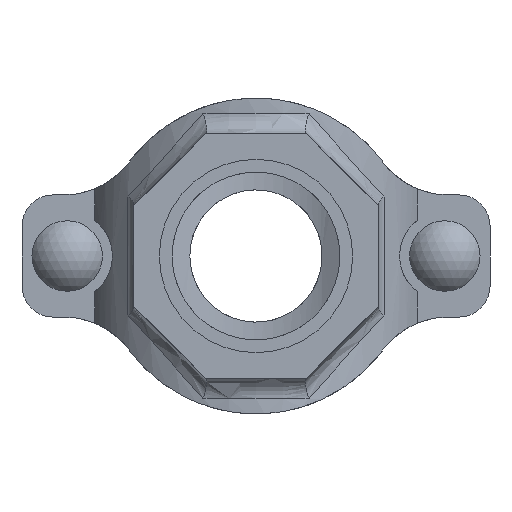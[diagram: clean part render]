
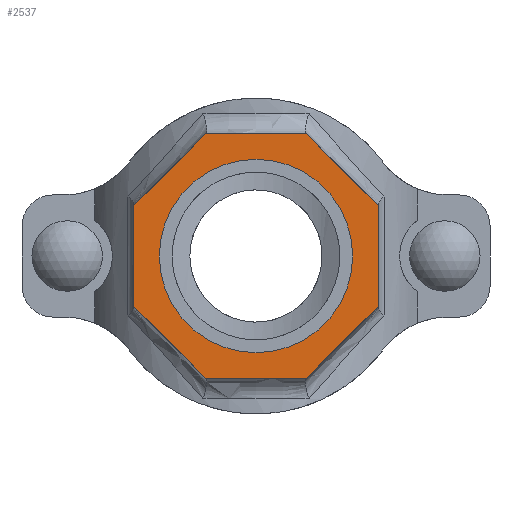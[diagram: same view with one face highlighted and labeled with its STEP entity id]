
A CAD part, front view. The second image highlights one B-rep face of the part: STEP entity #2537.
In plain terms, the highlighted planar face has unit normal (0, -1, 0) as drawn and (0, 1, 0) by its records, which use the part's own axes.
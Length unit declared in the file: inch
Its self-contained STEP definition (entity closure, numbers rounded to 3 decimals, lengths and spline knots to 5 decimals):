
#186=FACE_BOUND('',#457,.T.);
#305=FACE_OUTER_BOUND('',#456,.T.);
#456=EDGE_LOOP('',(#2126,#2127,#2128,#2129,#2130,#2131,#2132,#2133));
#457=EDGE_LOOP('',(#2134));
#594=LINE('',#4683,#780);
#597=LINE('',#4688,#783);
#599=LINE('',#4692,#785);
#601=LINE('',#4696,#787);
#637=LINE('',#5117,#823);
#639=LINE('',#5121,#825);
#641=LINE('',#5125,#827);
#643=LINE('',#5128,#829);
#780=VECTOR('',#3278,0.3937);
#783=VECTOR('',#3283,0.3937);
#785=VECTOR('',#3287,0.3937);
#787=VECTOR('',#3291,0.3937);
#823=VECTOR('',#3415,0.3937);
#825=VECTOR('',#3419,0.3937);
#827=VECTOR('',#3423,0.3937);
#829=VECTOR('',#3427,0.3937);
#915=CIRCLE('',#2798,1.1875);
#1097=VERTEX_POINT('',#4680);
#1098=VERTEX_POINT('',#4682);
#1099=VERTEX_POINT('',#4686);
#1100=VERTEX_POINT('',#4690);
#1101=VERTEX_POINT('',#4694);
#1132=VERTEX_POINT('',#4966);
#1156=VERTEX_POINT('',#5116);
#1157=VERTEX_POINT('',#5120);
#1158=VERTEX_POINT('',#5124);
#1408=EDGE_CURVE('',#1098,#1097,#594,.T.);
#1411=EDGE_CURVE('',#1097,#1099,#597,.T.);
#1413=EDGE_CURVE('',#1099,#1100,#599,.T.);
#1415=EDGE_CURVE('',#1100,#1101,#601,.T.);
#1457=EDGE_CURVE('',#1132,#1132,#915,.T.);
#1489=EDGE_CURVE('',#1156,#1098,#637,.T.);
#1491=EDGE_CURVE('',#1157,#1156,#639,.T.);
#1493=EDGE_CURVE('',#1158,#1157,#641,.T.);
#1495=EDGE_CURVE('',#1101,#1158,#643,.T.);
#2126=ORIENTED_EDGE('',*,*,#1495,.T.);
#2127=ORIENTED_EDGE('',*,*,#1493,.T.);
#2128=ORIENTED_EDGE('',*,*,#1491,.T.);
#2129=ORIENTED_EDGE('',*,*,#1489,.T.);
#2130=ORIENTED_EDGE('',*,*,#1408,.T.);
#2131=ORIENTED_EDGE('',*,*,#1411,.T.);
#2132=ORIENTED_EDGE('',*,*,#1413,.T.);
#2133=ORIENTED_EDGE('',*,*,#1415,.T.);
#2134=ORIENTED_EDGE('',*,*,#1457,.T.);
#2278=PLANE('',#2821);
#2537=ADVANCED_FACE('',(#305,#186),#2278,.T.);
#2798=AXIS2_PLACEMENT_3D('',#4967,#3361,#3362);
#2821=AXIS2_PLACEMENT_3D('',#5129,#3428,#3429);
#3278=DIRECTION('',(0.,0.,1.));
#3283=DIRECTION('',(0.707,0.,0.707));
#3287=DIRECTION('',(1.,0.,0.));
#3291=DIRECTION('',(0.707,0.,-0.707));
#3361=DIRECTION('center_axis',(0.,-1.,0.));
#3362=DIRECTION('ref_axis',(-1.,0.,0.));
#3415=DIRECTION('',(-0.707,0.,0.707));
#3419=DIRECTION('',(-1.,0.,0.));
#3423=DIRECTION('',(-0.707,0.,-0.707));
#3427=DIRECTION('',(0.,0.,-1.));
#3428=DIRECTION('center_axis',(0.,1.,0.));
#3429=DIRECTION('ref_axis',(0.,0.,1.));
#4680=CARTESIAN_POINT('',(-1.5,3.5,0.62132));
#4682=CARTESIAN_POINT('',(-1.5,3.5,-0.62132));
#4683=CARTESIAN_POINT('',(-1.5,3.5,0.62132));
#4686=CARTESIAN_POINT('',(-0.62132,3.5,1.5));
#4688=CARTESIAN_POINT('',(-0.62132,3.5,1.5));
#4690=CARTESIAN_POINT('',(0.62132,3.5,1.5));
#4692=CARTESIAN_POINT('',(0.62132,3.5,1.5));
#4694=CARTESIAN_POINT('',(1.5,3.5,0.62132));
#4696=CARTESIAN_POINT('',(1.5,3.5,0.62132));
#4966=CARTESIAN_POINT('',(1.1875,3.5,0.));
#4967=CARTESIAN_POINT('Origin',(0.,3.5,0.));
#5116=CARTESIAN_POINT('',(-0.62132,3.5,-1.5));
#5117=CARTESIAN_POINT('',(-1.5,3.5,-0.62132));
#5120=CARTESIAN_POINT('',(0.62132,3.5,-1.5));
#5121=CARTESIAN_POINT('',(-0.62132,3.5,-1.5));
#5124=CARTESIAN_POINT('',(1.5,3.5,-0.62132));
#5125=CARTESIAN_POINT('',(0.62132,3.5,-1.5));
#5128=CARTESIAN_POINT('',(1.5,3.5,-0.62132));
#5129=CARTESIAN_POINT('Origin',(0.,3.5,0.));
